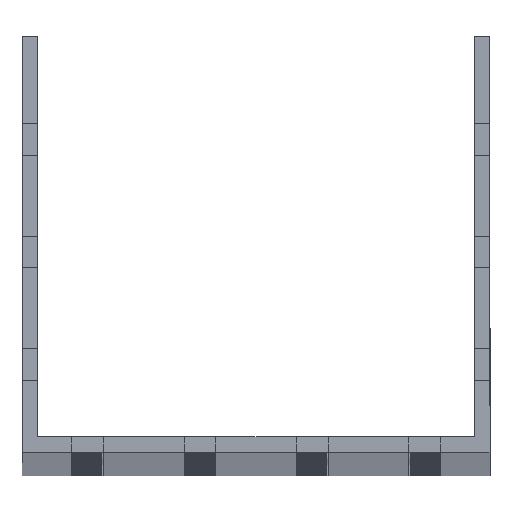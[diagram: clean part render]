
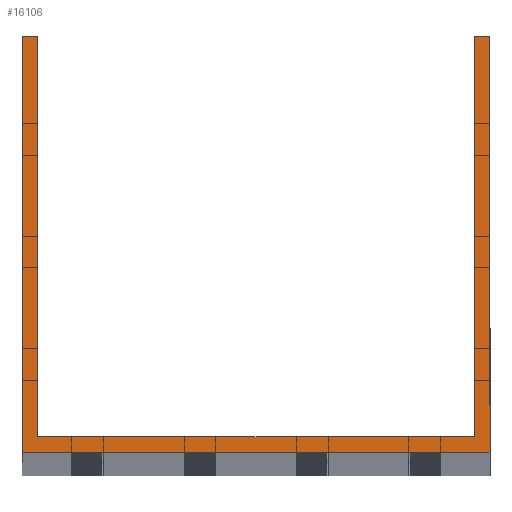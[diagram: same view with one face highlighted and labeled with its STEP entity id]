
A CAD part, top view. The second image highlights one B-rep face of the part: STEP entity #16106.
In plain terms, the highlighted planar face has unit normal (0, 0, 1).
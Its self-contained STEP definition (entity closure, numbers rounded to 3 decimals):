
#329 = LINE ( 'NONE', #52445, #17625 ) ;
#476 = ORIENTED_EDGE ( 'NONE', *, *, #46352, .T. ) ;
#4520 = EDGE_CURVE ( 'NONE', #13707, #34554, #11956, .T. ) ;
#7864 = CARTESIAN_POINT ( 'NONE',  ( 48.5, 3.5, 1500. ) ) ;
#10370 = CARTESIAN_POINT ( 'NONE',  ( -48.5, 92.5, 1500. ) ) ;
#10430 = VECTOR ( 'NONE', #85248, 1000. ) ;
#11956 = LINE ( 'NONE', #51148, #43100 ) ;
#12719 = EDGE_CURVE ( 'NONE', #95138, #13150, #49339, .T. ) ;
#13150 = VERTEX_POINT ( 'NONE', #93374 ) ;
#13707 = VERTEX_POINT ( 'NONE', #87769 ) ;
#14086 = ORIENTED_EDGE ( 'NONE', *, *, #36544, .F. ) ;
#16106 = ADVANCED_FACE ( 'NONE', ( #34812 ), #27368, .T. ) ;
#17423 = VECTOR ( 'NONE', #34440, 1000. ) ;
#17625 = VECTOR ( 'NONE', #75264, 1000. ) ;
#20354 = LINE ( 'NONE', #72957, #63728 ) ;
#22033 = VERTEX_POINT ( 'NONE', #52529 ) ;
#22617 = AXIS2_PLACEMENT_3D ( 'NONE', #95332, #26875, #78977 ) ;
#24719 = CARTESIAN_POINT ( 'NONE',  ( 52., 92.5, 1500. ) ) ;
#24996 = DIRECTION ( 'NONE',  ( 0., -1., 0. ) ) ;
#25471 = CARTESIAN_POINT ( 'NONE',  ( -48.5, 3.5, 1500. ) ) ;
#26875 = DIRECTION ( 'NONE',  ( 0., 0., 1. ) ) ;
#27316 = CARTESIAN_POINT ( 'NONE',  ( -52., 0., 1500. ) ) ;
#27368 = PLANE ( 'NONE',  #22617 ) ;
#32449 = CARTESIAN_POINT ( 'NONE',  ( -48.5, 92.5, 1500. ) ) ;
#32668 = VECTOR ( 'NONE', #24996, 1000. ) ;
#34295 = DIRECTION ( 'NONE',  ( -1., 0., 0. ) ) ;
#34440 = DIRECTION ( 'NONE',  ( 1., 0., 0. ) ) ;
#34542 = EDGE_CURVE ( 'NONE', #13150, #13707, #93666, .T. ) ;
#34554 = VERTEX_POINT ( 'NONE', #40581 ) ;
#34812 = FACE_OUTER_BOUND ( 'NONE', #94493, .T. ) ;
#36544 = EDGE_CURVE ( 'NONE', #72459, #49820, #39886, .T. ) ;
#37289 = VECTOR ( 'NONE', #46203, 1000. ) ;
#39886 = LINE ( 'NONE', #32449, #32668 ) ;
#40581 = CARTESIAN_POINT ( 'NONE',  ( 48.5, 92.5, 1500. ) ) ;
#40898 = ORIENTED_EDGE ( 'NONE', *, *, #34542, .T. ) ;
#42460 = VERTEX_POINT ( 'NONE', #7864 ) ;
#43100 = VECTOR ( 'NONE', #34295, 1000. ) ;
#43958 = EDGE_CURVE ( 'NONE', #49820, #42460, #329, .T. ) ;
#46203 = DIRECTION ( 'NONE',  ( 0., -1., 0. ) ) ;
#46352 = EDGE_CURVE ( 'NONE', #72459, #22033, #95101, .T. ) ;
#46469 = VECTOR ( 'NONE', #72303, 1000. ) ;
#47958 = ORIENTED_EDGE ( 'NONE', *, *, #4520, .T. ) ;
#48490 = CARTESIAN_POINT ( 'NONE',  ( -52., 92.5, 1500. ) ) ;
#48842 = CARTESIAN_POINT ( 'NONE',  ( -52., 0., 1500. ) ) ;
#49339 = LINE ( 'NONE', #48842, #17423 ) ;
#49820 = VERTEX_POINT ( 'NONE', #25471 ) ;
#51148 = CARTESIAN_POINT ( 'NONE',  ( -52., 92.5, 1500. ) ) ;
#52445 = CARTESIAN_POINT ( 'NONE',  ( -52., 3.5, 1500. ) ) ;
#52529 = CARTESIAN_POINT ( 'NONE',  ( -52., 92.5, 1500. ) ) ;
#63728 = VECTOR ( 'NONE', #80878, 1000. ) ;
#64733 = EDGE_CURVE ( 'NONE', #22033, #95138, #84403, .T. ) ;
#69193 = EDGE_CURVE ( 'NONE', #42460, #34554, #20354, .T. ) ;
#72303 = DIRECTION ( 'NONE',  ( -1., 0., 0. ) ) ;
#72459 = VERTEX_POINT ( 'NONE', #10370 ) ;
#72957 = CARTESIAN_POINT ( 'NONE',  ( 48.5, 92.5, 1500. ) ) ;
#73583 = ORIENTED_EDGE ( 'NONE', *, *, #69193, .F. ) ;
#75264 = DIRECTION ( 'NONE',  ( 1., 0., 0. ) ) ;
#76421 = ORIENTED_EDGE ( 'NONE', *, *, #64733, .T. ) ;
#78977 = DIRECTION ( 'NONE',  ( 1., 0., 0. ) ) ;
#80878 = DIRECTION ( 'NONE',  ( 0., 1., 0. ) ) ;
#84403 = LINE ( 'NONE', #91837, #37289 ) ;
#84691 = ORIENTED_EDGE ( 'NONE', *, *, #43958, .F. ) ;
#85248 = DIRECTION ( 'NONE',  ( 0., 1., 0. ) ) ;
#87769 = CARTESIAN_POINT ( 'NONE',  ( 52., 92.5, 1500. ) ) ;
#89752 = ORIENTED_EDGE ( 'NONE', *, *, #12719, .T. ) ;
#91837 = CARTESIAN_POINT ( 'NONE',  ( -52., 92.5, 1500. ) ) ;
#93374 = CARTESIAN_POINT ( 'NONE',  ( 52., 0., 1500. ) ) ;
#93666 = LINE ( 'NONE', #24719, #10430 ) ;
#94493 = EDGE_LOOP ( 'NONE', ( #14086, #476, #76421, #89752, #40898, #47958, #73583, #84691 ) ) ;
#95101 = LINE ( 'NONE', #48490, #46469 ) ;
#95138 = VERTEX_POINT ( 'NONE', #27316 ) ;
#95332 = CARTESIAN_POINT ( 'NONE',  ( 0., 0., 1500. ) ) ;
